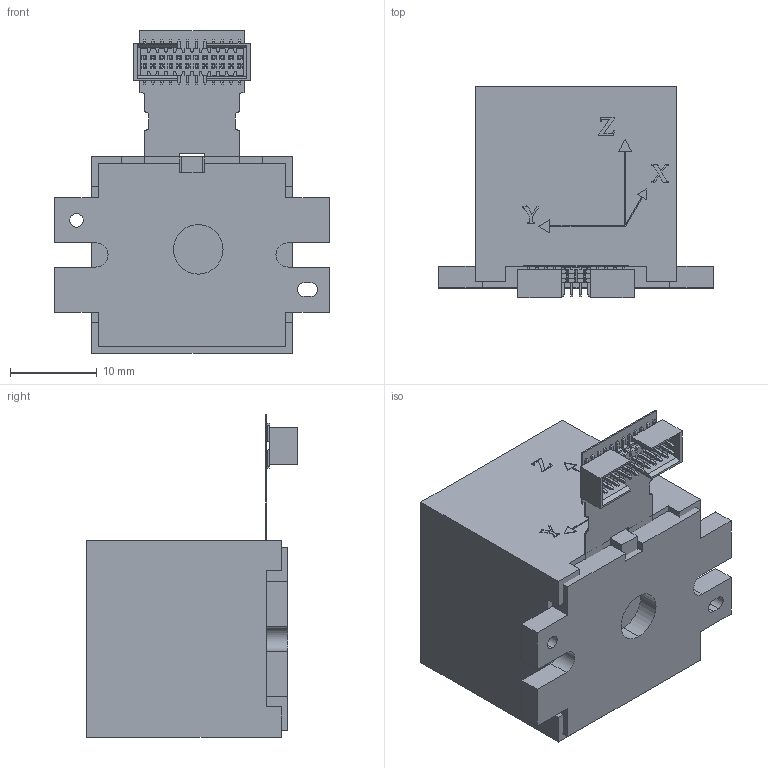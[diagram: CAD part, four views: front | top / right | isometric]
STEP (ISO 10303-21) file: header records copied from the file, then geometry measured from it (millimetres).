
FILE_DESCRIPTION (( 'STEP AP214' ), '1' );
FILE_NAME ('GS09201assm.STEP', '2011-08-19T15:36:14', ( 'Rodney Brand' ), ( 'Analog Devices Inc.' ), 'SwSTEP 2.0', 'SolidWorks 2009', '' );
FILE_SCHEMA (( 'AUTOMOTIVE_DESIGN' ));
Length unit declared in the file: millimetre
Products named in the file (7): GS09201shell; GS09201base; FTMH-112-03-X-DV-ES; GS09201tail; FTMH-112-03-X-DV-BASIC; FTMH-EX; GS09201assm
Assembly tree (7 placements, depth 3):
  GS09201assm
    FTMH-112-03-X-DV-ES
      FTMH-EX  x2
      FTMH-112-03-X-DV-BASIC
    GS09201shell
    GS09201tail
    GS09201base
Bounding box: 31.7 x 24.45 x 37.26 mm (x, y, z)
Volume: 12576.2 mm3; surface area: 5424.6 mm2
Topology: 6 solids, 6 shells, 1542 faces, 4062 edges, 2580 vertices
Faces by surface type: plane 1294, bspline 170, cylinder 78
Entity records: 57037 total; most frequent: CARTESIAN_POINT 16943, ORIENTED_EDGE 7824, DIRECTION 6438, EDGE_CURVE 3912, VECTOR 3368, LINE 3368, VERTEX_POINT 2480, EDGE_LOOP 1544
